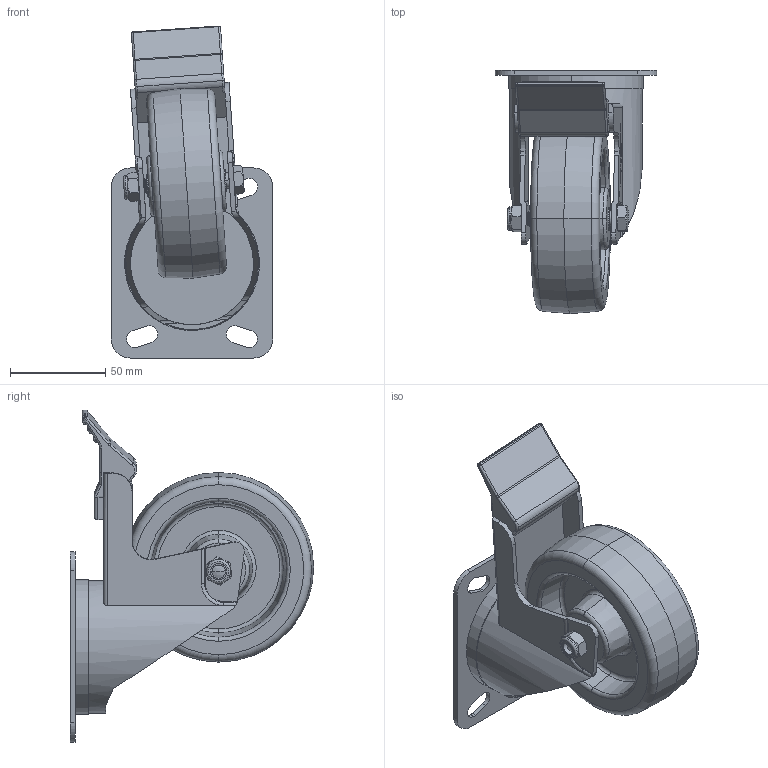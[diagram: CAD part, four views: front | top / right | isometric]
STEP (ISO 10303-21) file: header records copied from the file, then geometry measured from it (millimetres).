
FILE_DESCRIPTION (( 'STEP AP214' ), '1' );
FILE_NAME ('MSN100-SP-TB.step', '2024-01-21T22:19:41', ( '' ), ( '' ), 'SwSTEP 2.0', 'SolidWorks 2022', '' );
FILE_SCHEMA (( 'AUTOMOTIVE_DESIGN' ));
Length unit declared in the file: millimetre
Products named in the file (7): MSN100-SP-TB; M8x55-SS; M8Nyloc-SS; 100X85 ANGLED; SP12-8-41-SS; MSN100
Assembly tree (6 placements, depth 2):
  MSN100-SP-TB
    100X85 ANGLED
    SP12-8-41-SS
    M8x55-SS
    M8Nyloc-SS
    MSN100-SP-TB
    MSN100
Bounding box: 85 x 128 x 174.69 mm (x, y, z)
Volume: 294155.4 mm3; surface area: 99635.1 mm2
Topology: 6 solids, 6 shells, 692 faces, 1830 edges, 1186 vertices
Faces by surface type: plane 322, cylinder 165, bspline 125, torus 41, cone 32, sphere 7
Entity records: 33394 total; most frequent: CARTESIAN_POINT 15558, ORIENTED_EDGE 3652, DIRECTION 2816, EDGE_CURVE 1826, VERTEX_POINT 1186, VECTOR 1096, LINE 1096, AXIS2_PLACEMENT_3D 860
